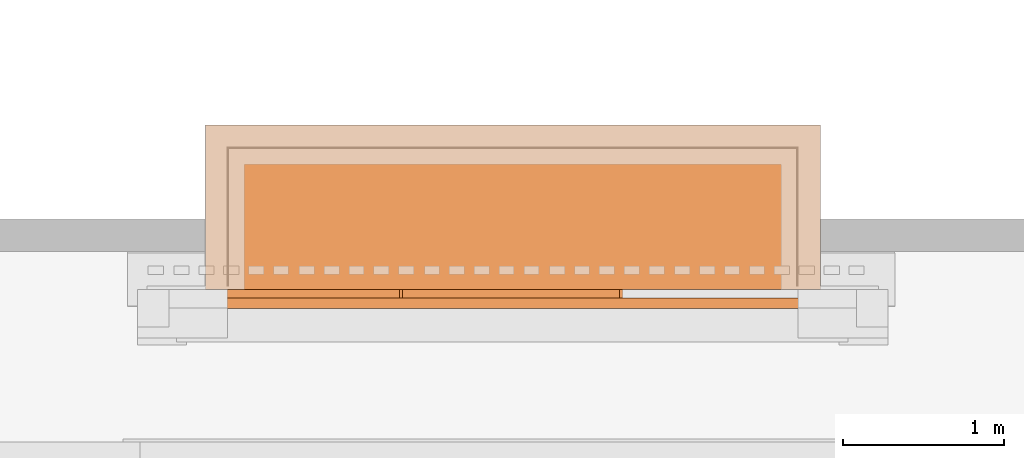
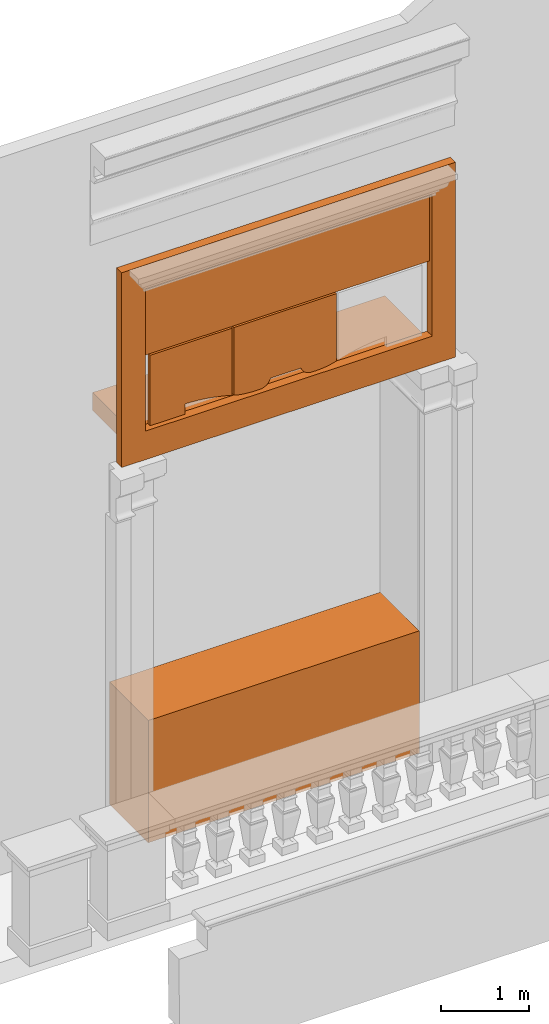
# One storey, part 4 of 14: 6 proxies.
"""IFC2X3 building model written with IfcOpenShell, lengths in metres."""

from ifc_helpers import new_model, entity, si_unit, converted_unit, derived_unit, direction, frame, frame_2d, origin, place, context, subcontext, project, spatial, polyline, circle_curve, parameter, trimmed, segment, composite_curve, rectangle, outline, extrude, material, element, save


model = new_model("IFC2X3")

# Units and contexts
model_context = context("Model", 3, precision=1e-05, world=origin(), true_north=direction((6.12303176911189e-17, 1.0)))
body_context = subcontext(model_context, "Body", "Model", "MODEL_VIEW")
ifc_project = project(units=[si_unit("LENGTHUNIT", "METRE"), si_unit("AREAUNIT", "SQUARE_METRE"), si_unit("VOLUMEUNIT", "CUBIC_METRE"), converted_unit("PLANEANGLEUNIT", "DEGREE", entity("IfcRatioMeasure", 0.0174532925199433), si_unit("PLANEANGLEUNIT", "RADIAN"), dimensions=[0, 0, 0, 0, 0, 0, 0]), si_unit("MASSUNIT", "GRAM", prefix="KILO"), derived_unit("MASSDENSITYUNIT", [(si_unit("MASSUNIT", "GRAM", prefix="KILO"), 1), (si_unit("LENGTHUNIT", "METRE"), -3)]), si_unit("TIMEUNIT", "SECOND"), si_unit("FREQUENCYUNIT", "HERTZ"), si_unit("THERMODYNAMICTEMPERATUREUNIT", "DEGREE_CELSIUS"), derived_unit("THERMALTRANSMITTANCEUNIT", [(si_unit("MASSUNIT", "GRAM", prefix="KILO"), 1), (si_unit("THERMODYNAMICTEMPERATUREUNIT", "KELVIN"), -1), (si_unit("TIMEUNIT", "SECOND"), -3)]), derived_unit("VOLUMETRICFLOWRATEUNIT", [(si_unit("LENGTHUNIT", "METRE"), 3), (si_unit("TIMEUNIT", "SECOND"), -1)]), si_unit("ELECTRICCURRENTUNIT", "AMPERE"), si_unit("ELECTRICVOLTAGEUNIT", "VOLT"), si_unit("POWERUNIT", "WATT"), si_unit("FORCEUNIT", "NEWTON", prefix="KILO"), si_unit("ILLUMINANCEUNIT", "LUX"), si_unit("LUMINOUSFLUXUNIT", "LUMEN"), si_unit("LUMINOUSINTENSITYUNIT", "CANDELA"), derived_unit("USERDEFINED", [(si_unit("MASSUNIT", "GRAM", prefix="KILO"), -1), (si_unit("LENGTHUNIT", "METRE"), -2), (si_unit("TIMEUNIT", "SECOND"), 3), (si_unit("LUMINOUSFLUXUNIT", "LUMEN"), 1)]), derived_unit("LINEARVELOCITYUNIT", [(si_unit("LENGTHUNIT", "METRE"), 1), (si_unit("TIMEUNIT", "SECOND"), -1)]), si_unit("PRESSUREUNIT", "PASCAL"), derived_unit("USERDEFINED", [(si_unit("LENGTHUNIT", "METRE"), -2), (si_unit("MASSUNIT", "GRAM", prefix="KILO"), 1), (si_unit("TIMEUNIT", "SECOND"), -2)])], contexts=[model_context])

# Site, building, storey
site_placement = place(None, origin())
site = spatial("IfcSite", under=ifc_project, at=site_placement, Name="Default", CompositionType="ELEMENT")
building_placement = place(site_placement, origin())
building = spatial("IfcBuilding", under=site, at=building_placement, CompositionType="ELEMENT")
storey_placement = place(building_placement, frame((0.0, 0.0, 13.366833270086)))
storey = spatial("IfcBuildingStorey", under=building, at=storey_placement, Name="Livello 2", CompositionType="ELEMENT", Elevation=13.366833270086)

# Proxies
ifc_material_1 = material(Name="Intonaco Liscio")
proxy_1_placement = place(storey_placement, frame((-8.94278761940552, 1.02553250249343, -0.040000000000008)))
element("IfcBuildingElementProxy", 1, at=proxy_1_placement, inside=storey, material=ifc_material_1, Name="Stratigrafia", context=body_context, shape_type="SweptSolid", body=[
    extrude(rectangle(XDim=1.69270076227, YDim=0.883358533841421, at=frame_2d((0.0, 1.11022302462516e-15), x_axis=(0.0, 1.0))), frame((0.0, 0.441679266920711, 0.846350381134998), z_axis=(1.0, 0.0, 0.0), x_axis=(0.0, 1.0, 0.0)), (0.0, 0.0, 1.0), 3.54630263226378),
])
ifc_material_2 = material(Name="Travertino")
proxy_2_placement = place(storey_placement, frame((-9.35951967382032, 0.907882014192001, 5.37095678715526)))
element("IfcBuildingElementProxy", 2, at=proxy_2_placement, inside=storey, material=ifc_material_2, Name="Stratigrafia", context=body_context, shape_type="SweptSolid", body=[
    extrude(outline(polyline([(-1.34735578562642, -2.18501190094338), (1.34735578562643, -2.18501190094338), (1.34735578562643, 2.18501190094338), (-1.34735578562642, 2.18501190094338), (-1.34735578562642, -2.18501190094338)]), holes=[polyline([(0.951931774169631, -1.87948321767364), (-1.00788053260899, -1.87948321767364), (-1.00788053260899, 1.87658791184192), (0.951931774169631, 1.87658791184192), (0.951931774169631, -1.87948321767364)])]), frame((2.18501190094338, 0.0, 1.34735578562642), z_axis=(0.0, 1.0, 0.0), x_axis=(0.0, 0.0, -1.0)), (0.0, 0.0, 1.0), 0.117650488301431),
])
proxy_3_placement = place(storey_placement, frame((-8.94883022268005, 0.972978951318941, 5.76637845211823)))
element("IfcBuildingElementProxy", 3, at=proxy_3_placement, inside=storey, material=ifc_material_2, Name="Stratigrafia", context=body_context, shape_type="SweptSolid", body=[
    extrude(outline(composite_curve([segment(polyline([(0.0555556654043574, -0.356557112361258), (0.509244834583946, -0.356557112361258)]), True, "CONTINUOUS"), segment(polyline([(0.509244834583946, -0.356557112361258), (0.509244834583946, 0.618564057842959)]), True, "CONTINUOUS"), segment(polyline([(0.509244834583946, 0.618564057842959), (-0.564798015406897, 0.618564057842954)]), True, "CONTINUOUS"), segment(polyline([(-0.564798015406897, 0.618564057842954), (-0.564798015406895, -0.310709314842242)]), True, "CONTINUOUS"), segment(trimmed(circle_curve(frame_2d((0.107975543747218, -2.57131911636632), x_axis=(-0.312451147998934, 0.949933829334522)), 2.35859723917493), [parameter(343.066615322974)], [parameter(358.366369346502)], True, "PARAMETER"), False, "CONTINUOUS"), segment(polyline([(0.0555506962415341, -0.213304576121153), (0.0555556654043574, -0.356557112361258)]), True, "CONTINUOUS")], self_intersect=False)), frame((0.509244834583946, 0.0, 0.356557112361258), z_axis=(0.0, 1.0, 0.0), x_axis=(-1.0, 0.0, 0.0)), (0.0, 0.0, 1.0), 0.0525535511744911),
])
proxy_4_placement = place(storey_placement, frame((-7.85638264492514, 0.972978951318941, 5.76593873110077)))
element("IfcBuildingElementProxy", 4, at=proxy_4_placement, inside=storey, material=ifc_material_2, Name="Stratigrafia", context=body_context, shape_type="SweptSolid", body=[
    extrude(outline(composite_curve([segment(trimmed(circle_curve(frame_2d((-0.0898837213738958, -0.328295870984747), x_axis=(1.0, 0.0)), 0.142896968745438), [parameter(348.050889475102)], [parameter(359.9999999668)], True, "PARAMETER"), True, "CONTINUOUS"), segment(trimmed(circle_curve(frame_2d((-0.0898878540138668, -0.328295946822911), x_axis=(0.946291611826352, 0.323314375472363)), 0.142901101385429), [parameter(341.136547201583)], [parameter(359.999996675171)], True, "PARAMETER"), True, "CONTINUOUS"), segment(trimmed(circle_curve(frame_2d((-0.0898914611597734, -0.328297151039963), x_axis=(0.75000738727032, 0.661429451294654)), 0.142904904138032), [parameter(337.454486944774)], [parameter(7.58132585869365e-07)], True, "PARAMETER"), True, "CONTINUOUS"), segment(trimmed(circle_curve(frame_2d((-0.0898917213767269, -0.328297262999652), x_axis=(0.495662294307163, 0.868515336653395)), 0.142905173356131), [parameter(341.122379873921)], [parameter(360.0)], True, "PARAMETER"), True, "CONTINUOUS"), segment(polyline([(-0.0190590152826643, -0.204181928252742), (0.0793079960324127, 0.184985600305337)]), True, "CONTINUOUS"), segment(trimmed(circle_curve(frame_2d((0.0783999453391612, 0.327887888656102), x_axis=(0.00635421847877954, -0.999979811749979)), 0.142905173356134), [parameter(0.0)], [parameter(19.7731265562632)], True, "PARAMETER"), True, "CONTINUOUS"), segment(trimmed(circle_curve(frame_2d((0.0784001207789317, 0.327887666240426), x_axis=(0.344268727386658, -0.938871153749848)), 0.142904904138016), [parameter(9.99628235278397e-07)], [parameter(22.5455079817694)], True, "PARAMETER"), True, "CONTINUOUS"), segment(trimmed(circle_curve(frame_2d((0.0784027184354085, 0.327884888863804), x_axis=(0.67793724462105, -0.735119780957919)), 0.142901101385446), [parameter(359.999998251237)], [parameter(18.8634519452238)], True, "PARAMETER"), True, "CONTINUOUS"), segment(trimmed(circle_curve(frame_2d((0.0784063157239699, 0.327882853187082), x_axis=(0.87920112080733, -0.476450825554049)), 0.142896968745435), [parameter(359.999999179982)], [parameter(11.9491094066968)], True, "PARAMETER"), True, "CONTINUOUS"), segment(trimmed(circle_curve(frame_2d((0.0784083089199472, 0.327882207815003), x_axis=(0.958796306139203, -0.284094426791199)), 0.142894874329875), [parameter(9.63368537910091e-07)], [parameter(3.49044061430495)], True, "PARAMETER"), True, "CONTINUOUS"), segment(trimmed(circle_curve(frame_2d((-1.06263263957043, 0.658888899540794), x_axis=(0.962039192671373, -0.272911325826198)), 1.33078301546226), [parameter(359.999999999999)], [parameter(12.7606656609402)], True, "PARAMETER"), True, "CONTINUOUS"), segment(trimmed(circle_curve(frame_2d((2.61914075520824, 0.751166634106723), x_axis=(-0.997588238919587, -0.0694096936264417)), 2.35859723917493), [parameter(358.873950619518)], [parameter(5.08888749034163e-14)], True, "PARAMETER"), False, "CONTINUOUS"), segment(polyline([(0.263469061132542, 0.633728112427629), (-0.643166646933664, 0.863595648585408)]), True, "CONTINUOUS"), segment(polyline([(-0.643166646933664, 0.863595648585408), (-0.974292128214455, -0.442418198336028)]), True, "CONTINUOUS"), segment(polyline([(-0.974292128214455, -0.442418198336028), (-0.0716675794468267, -0.671268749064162)]), True, "CONTINUOUS"), segment(trimmed(circle_curve(frame_2d((1.93622923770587, -1.90873846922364), x_axis=(-0.844010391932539, 0.53632682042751)), 2.35859723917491), [parameter(359.999999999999)], [parameter(0.788349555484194)], True, "PARAMETER"), False, "CONTINUOUS"), segment(trimmed(circle_curve(frame_2d((-0.918429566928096, -0.167353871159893), x_axis=(0.979589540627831, -0.201008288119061)), 0.986620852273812), [parameter(342.723175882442)], [parameter(0.0141603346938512)], True, "PARAMETER"), True, "CONTINUOUS"), segment(trimmed(circle_curve(frame_2d((-0.0898816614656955, -0.328296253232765), x_axis=(0.978331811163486, -0.207043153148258)), 0.142894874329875), [parameter(356.885274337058)], [parameter(359.999997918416)], True, "PARAMETER"), True, "CONTINUOUS")], self_intersect=False)), frame((0.680637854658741, 0.0, 0.139880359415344), z_axis=(0.0, 1.0, 0.0), x_axis=(-0.245762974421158, 0.0, -0.969329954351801)), (0.0, 0.0, 1.0), 0.0525535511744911),
])
proxy_5_placement = place(storey_placement, frame((-9.05111900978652, 0.972978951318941, 6.76649962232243)))
element("IfcBuildingElementProxy", 5, at=proxy_5_placement, inside=storey, material=ifc_material_2, Name="Stratigrafia", context=body_context, shape_type="SweptSolid", body=[
    extrude(rectangle(XDim=0.955, YDim=0.0525535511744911, at=frame_2d((1.35308431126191e-16, 0.0), x_axis=(0.0, 1.0))), frame((0.0, 0.0262767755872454, 0.477500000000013), z_axis=(1.0, 0.0, 0.0), x_axis=(0.0, 1.0, 0.0)), (0.0, 0.0, 1.0), 3.76),
])
proxy_6_placement = place(storey_placement, frame((-9.08157037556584, 1.02553250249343, 5.37095678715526)))
element("IfcBuildingElementProxy", 6, at=proxy_6_placement, inside=storey, Name="Stratigrafia", context=body_context, shape_type="SweptSolid", body=[
    extrude(rectangle(XDim=0.25, YDim=1.02362887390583, at=frame_2d((2.17187379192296e-15, 0.0), x_axis=(1.0, 0.0))), frame((0.0, 0.511814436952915, 0.125000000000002), z_axis=(1.0, 0.0, 0.0), x_axis=(0.0, 0.0, -1.0)), (0.0, 0.0, 1.0), 3.82535572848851),
])

save(model, "model.ifc")
